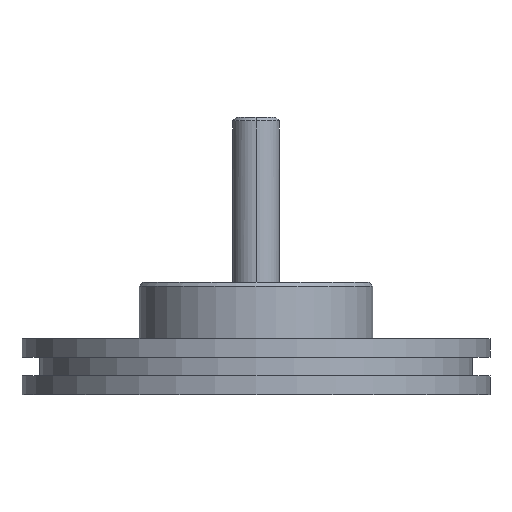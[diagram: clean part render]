
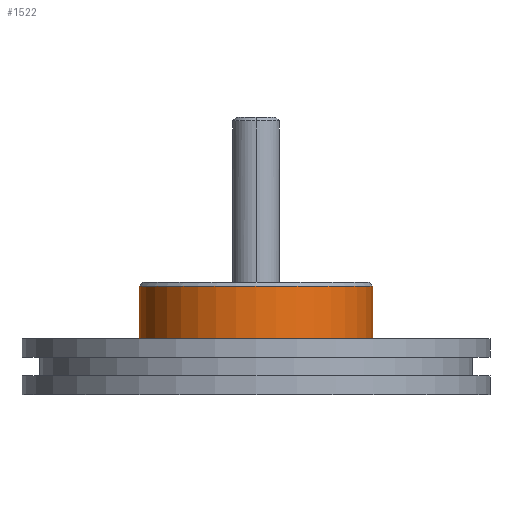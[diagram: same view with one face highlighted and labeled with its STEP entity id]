
A CAD part, front view. The second image highlights one B-rep face of the part: STEP entity #1522.
In plain terms, the highlighted cylindrical face has radius 15.85 mm (diameter 31.7 mm), a partial arc.
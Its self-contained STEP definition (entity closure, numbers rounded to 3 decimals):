
#92 = CARTESIAN_POINT ( 'NONE',  ( 0., 0., 13.47 ) ) ;
#347 = CIRCLE ( 'NONE', #1849, 15.85 ) ;
#493 = VERTEX_POINT ( 'NONE', #1505 ) ;
#746 = DIRECTION ( 'NONE',  ( 1., 0., 0. ) ) ;
#1027 = ORIENTED_EDGE ( 'NONE', *, *, #6874, .T. ) ;
#1178 = CARTESIAN_POINT ( 'NONE',  ( 15.85, 0., 6.35 ) ) ;
#1280 = DIRECTION ( 'NONE',  ( 0., 0., -1. ) ) ;
#1310 = DIRECTION ( 'NONE',  ( 0., 0., 1. ) ) ;
#1505 = CARTESIAN_POINT ( 'NONE',  ( -15.85, 0., 6.35 ) ) ;
#1522 = ADVANCED_FACE ( 'NONE', ( #2914 ), #7194, .T. ) ;
#1665 = DIRECTION ( 'NONE',  ( -1., 0., 0. ) ) ;
#1785 = VERTEX_POINT ( 'NONE', #1178 ) ;
#1849 = AXIS2_PLACEMENT_3D ( 'NONE', #92, #4516, #746 ) ;
#1891 = CARTESIAN_POINT ( 'NONE',  ( -15.85, 0., 13.97 ) ) ;
#2008 = VERTEX_POINT ( 'NONE', #6100 ) ;
#2315 = CARTESIAN_POINT ( 'NONE',  ( 15.85, 0., 13.47 ) ) ;
#2369 = VECTOR ( 'NONE', #1280, 1000. ) ;
#2677 = CARTESIAN_POINT ( 'NONE',  ( 15.85, 0., 13.97 ) ) ;
#2914 = FACE_OUTER_BOUND ( 'NONE', #5693, .T. ) ;
#2937 = ORIENTED_EDGE ( 'NONE', *, *, #6030, .T. ) ;
#3316 = DIRECTION ( 'NONE',  ( 0., 0., -1. ) ) ;
#4031 = LINE ( 'NONE', #1891, #2369 ) ;
#4516 = DIRECTION ( 'NONE',  ( 0., 0., -1. ) ) ;
#5113 = CARTESIAN_POINT ( 'NONE',  ( 0., 0., 6.35 ) ) ;
#5480 = CARTESIAN_POINT ( 'NONE',  ( 0., 0., 13.97 ) ) ;
#5693 = EDGE_LOOP ( 'NONE', ( #7968, #6084, #2937, #1027 ) ) ;
#5763 = DIRECTION ( 'NONE',  ( 1., 0., 0. ) ) ;
#6030 = EDGE_CURVE ( 'NONE', #2008, #493, #4031, .T. ) ;
#6084 = ORIENTED_EDGE ( 'NONE', *, *, #6930, .T. ) ;
#6100 = CARTESIAN_POINT ( 'NONE',  ( -15.85, 0., 13.47 ) ) ;
#6206 = CIRCLE ( 'NONE', #6691, 15.85 ) ;
#6457 = VECTOR ( 'NONE', #3316, 1000. ) ;
#6691 = AXIS2_PLACEMENT_3D ( 'NONE', #5113, #1310, #5763 ) ;
#6874 = EDGE_CURVE ( 'NONE', #493, #1785, #6206, .T. ) ;
#6930 = EDGE_CURVE ( 'NONE', #7377, #2008, #347, .T. ) ;
#7194 = CYLINDRICAL_SURFACE ( 'NONE', #7601, 15.85 ) ;
#7355 = DIRECTION ( 'NONE',  ( 0., 0., -1. ) ) ;
#7377 = VERTEX_POINT ( 'NONE', #2315 ) ;
#7601 = AXIS2_PLACEMENT_3D ( 'NONE', #5480, #7355, #1665 ) ;
#7947 = LINE ( 'NONE', #2677, #6457 ) ;
#7968 = ORIENTED_EDGE ( 'NONE', *, *, #8210, .F. ) ;
#8210 = EDGE_CURVE ( 'NONE', #7377, #1785, #7947, .T. ) ;
